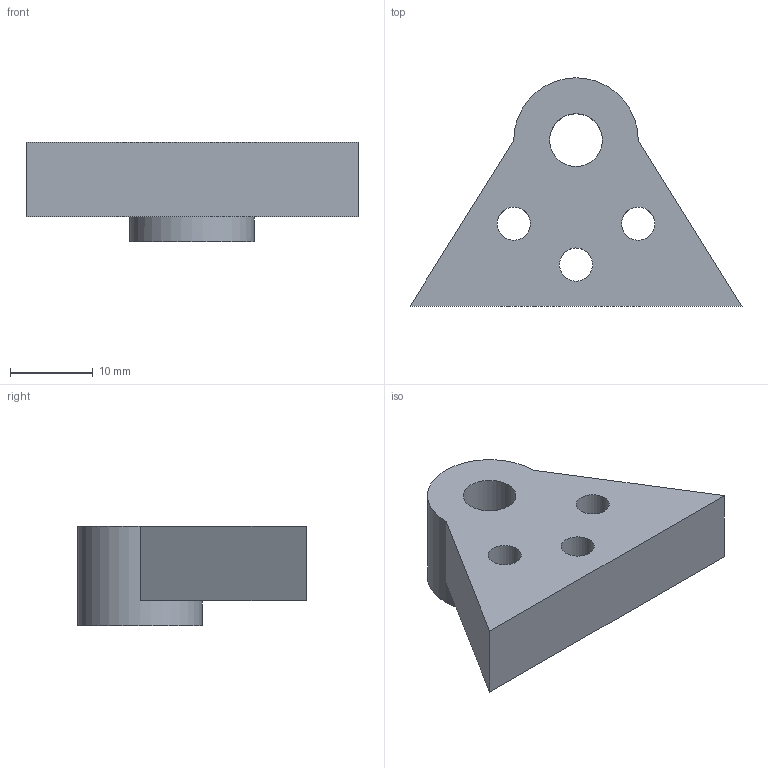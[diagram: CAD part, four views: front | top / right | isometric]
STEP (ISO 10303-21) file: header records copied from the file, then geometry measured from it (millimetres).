
FILE_DESCRIPTION(/* description */ (''),/* implementation_level */ '2;1');
FILE_NAME(/* name */ 'C:/Users/Jesus/Documents/Diseños_/Maquina_soalr/soporte 1 v7.step',/* time_stamp */ '2018-05-28T16:52:59-05:00',/* author */ ('sinister_4440'),/* organization */ (''),/* preprocessor_version */ 'ST-DEVELOPER v17',/* originating_system */ 'Autodesk Translation Framework v7.1.0.215',/* authorisation */ '');
FILE_SCHEMA (('AUTOMOTIVE_DESIGN { 1 0 10303 214 3 1 1 }'));
Length unit declared in the file: millimetre
Products named in the file (1): soporte 1
Bounding box: 40 x 27.5 x 12 mm (x, y, z)
Volume: 5542.9 mm3; surface area: 2839 mm2
Topology: 1 solids, 1 shells, 14 faces, 33 edges, 21 vertices
Faces by surface type: plane 6, cylinder 5, torus 3
Full cylindrical faces by diameter (mm): 4 x3, 6.35 x1, 15 x1
Entity records: 460 total; most frequent: DIRECTION 81, CARTESIAN_POINT 69, ORIENTED_EDGE 66, EDGE_CURVE 33, AXIS2_PLACEMENT_3D 33, EDGE_LOOP 22, VERTEX_POINT 21, CIRCLE 18
